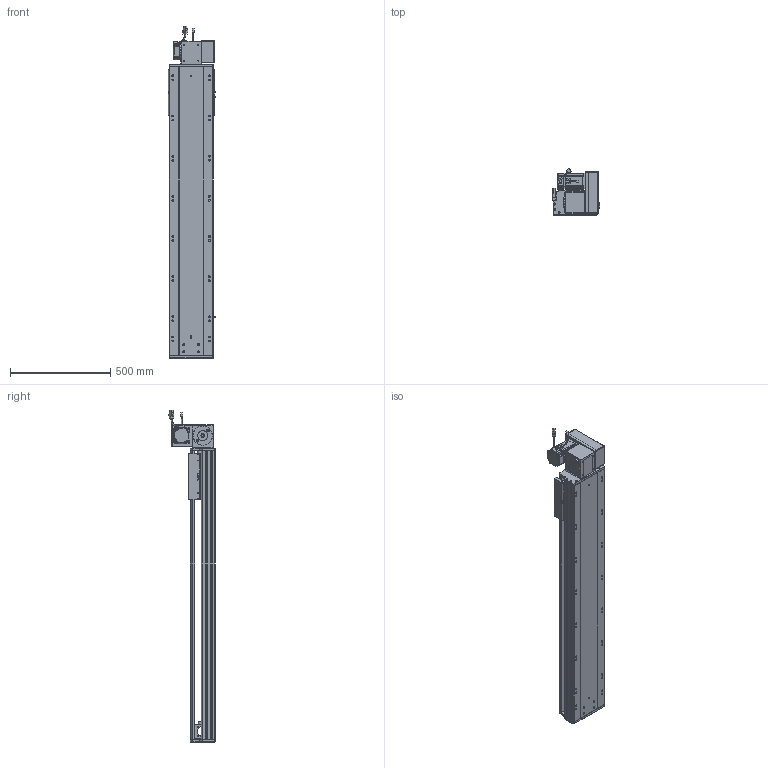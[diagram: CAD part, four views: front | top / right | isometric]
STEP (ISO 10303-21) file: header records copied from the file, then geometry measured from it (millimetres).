
FILE_DESCRIPTION (( 'STEP AP203' ), '1' );
FILE_NAME ('RY220-T-300-UR.SLDASM_1100.step', '2022-07-25T08:43:28', ( '' ), ( '' ), 'SwSTEP 2.0', 'SolidWorks 2016', '' );
FILE_SCHEMA (( 'CONFIG_CONTROL_DESIGN' ));
Length unit declared in the file: millimetre
Products named in the file (14): RY220-T-300-奻裔啣_1100; RY220-T-300-UR.SLDASM_1100; RY220-T-湍謫欶(鍼踢); 滅袉蝶18-15; RY220圉猾敕々湍臏賑輸; RY220翋肮祭謫釱; RY220-T-蛌殏萇儂假蚾啣(750W); RY220-T菁釱-300_1100; 怢湛750W_ECMA-CX0807ES; RY220翋肮祭謫裔啣; RY220-俋离672覜茼んえ; RY220-同步轮副支撑座6304×2; 110A-T-肮祭謫釱傷裔; 覜茼ん672
Assembly tree (18 placements, depth 2):
  RY220-T-300-UR.SLDASM_1100
    RY220-T菁釱-300_1100
    RY220翋肮祭謫釱
    覜茼ん672  x3
    RY220圉猾敕々湍臏賑輸
    RY220-T-300-奻裔啣_1100
    RY220-俋离672覜茼んえ
    滅袉蝶18-15  x3
    RY220翋肮祭謫裔啣  x2
    110A-T-肮祭謫釱傷裔
    怢湛750W_ECMA-CX0807ES
    RY220-T-湍謫欶(鍼踢)
    RY220-T-蛌殏萇儂假蚾啣(750W)
    RY220-同步轮副支撑座6304×2
Bounding box: 238.7 x 231.74 x 1653.27 mm (x, y, z)
Volume: 12906100.4 mm3; surface area: 3791379.4 mm2
Topology: 19 solids, 19 shells, 2646 faces, 7303 edges, 4632 vertices
Faces by surface type: cylinder 1242, plane 1069, cone 253, bspline 56, sphere 16, torus 10
Entity records: 88083 total; most frequent: CARTESIAN_POINT 25133, ORIENTED_EDGE 13082, DIRECTION 12368, EDGE_CURVE 6541, AXIS2_PLACEMENT_3D 4376, VERTEX_POINT 4256, LINE 3616, VECTOR 3616
